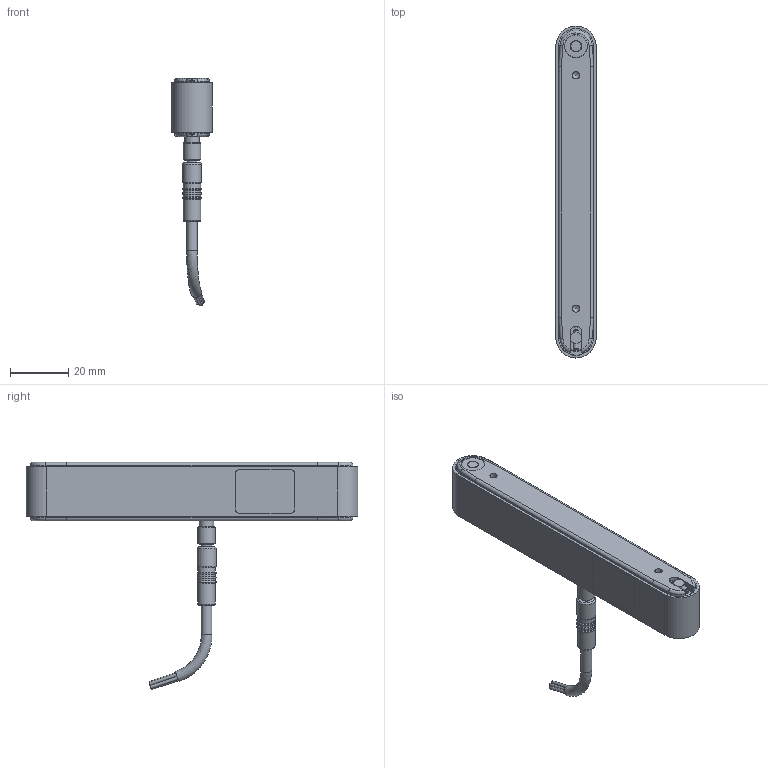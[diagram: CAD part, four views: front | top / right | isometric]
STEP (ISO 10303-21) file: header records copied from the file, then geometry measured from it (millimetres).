
FILE_DESCRIPTION(/* description */ (''),/* implementation_level */ '2;1');
FILE_NAME(/* name */ 'G:\DATEN\CAD\Förderband\Marketing\3D-Modelle (Standard)\FR-12-20\FR-12-20-DL-100-K.stp',/* time_stamp */ '2019-05-07T13:21:55+02:00',/* author */ ('melanie.ochs'),/* organization */ (''),/* preprocessor_version */ 'ST-DEVELOPER v17',/* originating_system */ 'Autodesk Inventor 2019',/* authorisation */ '');
FILE_SCHEMA (('CONFIG_CONTROL_DESIGN'));
Length unit declared in the file: millimetre
Products named in the file (1): FR-12-20-DL-100-K
Bounding box: 13.8 x 113.8 x 77.93 mm (x, y, z)
Volume: 29942.6 mm3; surface area: 20506 mm2
Topology: 15 solids, 15 shells, 497 faces, 1283 edges, 845 vertices
Faces by surface type: plane 217, cylinder 118, bspline 64, cone 55, torus 39, sphere 4
Full cylindrical faces by diameter (mm): 0.48 x4, 0.5 x4, 0.52 x4, 0.6 x4, 1 x7, 2 x2, 2.459 x4, 3.15 x1, 3.4 x1, 3.7 x1, 4 x5, 4.4 x1, 4.5 x2, 5 x3, 5.2 x1, 5.5 x2, 6 x5, 6.5 x1, 8 x6, 9.2 x4, 12 x3
Entity records: 16518 total; most frequent: CARTESIAN_POINT 4027, ORIENTED_EDGE 2524, DIRECTION 2442, EDGE_CURVE 1262, AXIS2_PLACEMENT_3D 950, VERTEX_POINT 845, EDGE_LOOP 553, LINE 542
